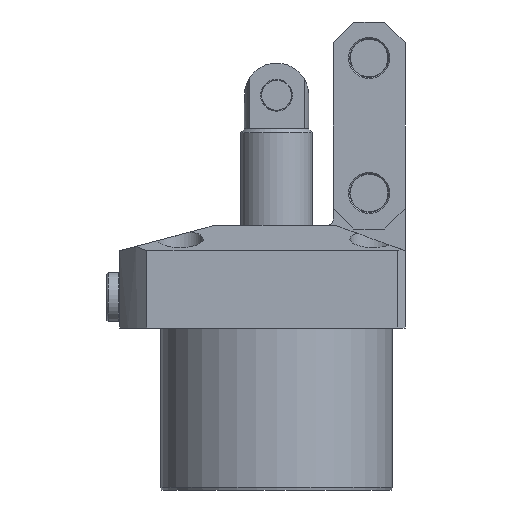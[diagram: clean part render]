
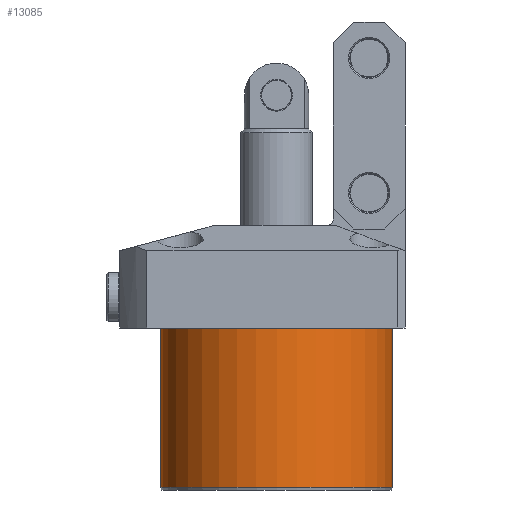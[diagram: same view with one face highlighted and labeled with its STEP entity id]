
A CAD part, front view. The second image highlights one B-rep face of the part: STEP entity #13085.
In plain terms, the highlighted cylindrical face has radius 45 mm (diameter 90 mm), a partial arc.
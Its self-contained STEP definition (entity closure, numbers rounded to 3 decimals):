
#23 = DIRECTION ( 'NONE',  ( 0., 0., 1. ) ) ;
#135 = LINE ( 'NONE', #8817, #14745 ) ;
#1796 = VERTEX_POINT ( 'NONE', #17641 ) ;
#2712 = CARTESIAN_POINT ( 'NONE',  ( 0., 0., 0. ) ) ;
#2875 = EDGE_CURVE ( 'NONE', #3600, #6636, #8752, .T. ) ;
#2984 = LINE ( 'NONE', #8668, #15051 ) ;
#3501 = DIRECTION ( 'NONE',  ( -1., 0., 0. ) ) ;
#3547 = CARTESIAN_POINT ( 'NONE',  ( 0., 0., -62. ) ) ;
#3600 = VERTEX_POINT ( 'NONE', #15285 ) ;
#3613 = DIRECTION ( 'NONE',  ( 0., 0., 1. ) ) ;
#4186 = EDGE_CURVE ( 'NONE', #3600, #15197, #2984, .T. ) ;
#4217 = DIRECTION ( 'NONE',  ( 1., 0., 0. ) ) ;
#4271 = CIRCLE ( 'NONE', #12677, 45. ) ;
#4910 = CARTESIAN_POINT ( 'NONE',  ( 45., 0., -62. ) ) ;
#5956 = CYLINDRICAL_SURFACE ( 'NONE', #12153, 45. ) ;
#6244 = ORIENTED_EDGE ( 'NONE', *, *, #17629, .T. ) ;
#6636 = VERTEX_POINT ( 'NONE', #4910 ) ;
#8189 = DIRECTION ( 'NONE',  ( 0., 0., 1. ) ) ;
#8668 = CARTESIAN_POINT ( 'NONE',  ( -45., 0., -63. ) ) ;
#8752 = CIRCLE ( 'NONE', #12554, 45. ) ;
#8817 = CARTESIAN_POINT ( 'NONE',  ( 45., 0., -63. ) ) ;
#9652 = DIRECTION ( 'NONE',  ( 1., 0., 0. ) ) ;
#9753 = FACE_OUTER_BOUND ( 'NONE', #10837, .T. ) ;
#9801 = CARTESIAN_POINT ( 'NONE',  ( -45., 0., 0. ) ) ;
#10094 = ORIENTED_EDGE ( 'NONE', *, *, #4186, .F. ) ;
#10837 = EDGE_LOOP ( 'NONE', ( #10094, #12212, #6244, #15232 ) ) ;
#12153 = AXIS2_PLACEMENT_3D ( 'NONE', #16492, #8189, #9652 ) ;
#12212 = ORIENTED_EDGE ( 'NONE', *, *, #2875, .T. ) ;
#12554 = AXIS2_PLACEMENT_3D ( 'NONE', #3547, #3613, #3501 ) ;
#12612 = DIRECTION ( 'NONE',  ( 0., 0., -1. ) ) ;
#12677 = AXIS2_PLACEMENT_3D ( 'NONE', #2712, #12612, #4217 ) ;
#13085 = ADVANCED_FACE ( 'NONE', ( #9753 ), #5956, .T. ) ;
#14745 = VECTOR ( 'NONE', #15587, 1000. ) ;
#15051 = VECTOR ( 'NONE', #23, 1000. ) ;
#15197 = VERTEX_POINT ( 'NONE', #9801 ) ;
#15232 = ORIENTED_EDGE ( 'NONE', *, *, #18034, .T. ) ;
#15285 = CARTESIAN_POINT ( 'NONE',  ( -45., 0., -62. ) ) ;
#15587 = DIRECTION ( 'NONE',  ( 0., 0., 1. ) ) ;
#16492 = CARTESIAN_POINT ( 'NONE',  ( 0., 0., -63. ) ) ;
#17629 = EDGE_CURVE ( 'NONE', #6636, #1796, #135, .T. ) ;
#17641 = CARTESIAN_POINT ( 'NONE',  ( 45., 0., 0. ) ) ;
#18034 = EDGE_CURVE ( 'NONE', #1796, #15197, #4271, .T. ) ;
